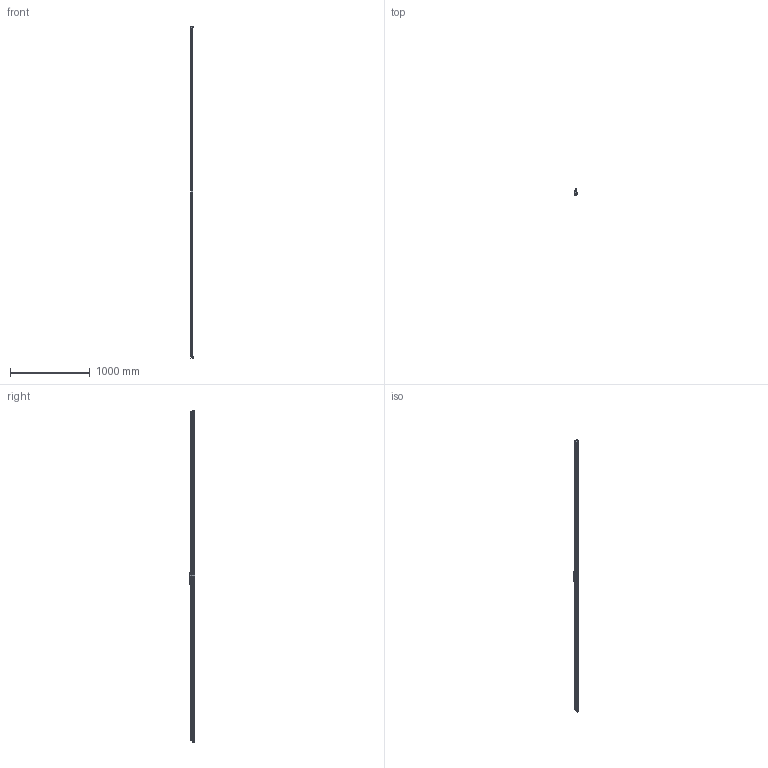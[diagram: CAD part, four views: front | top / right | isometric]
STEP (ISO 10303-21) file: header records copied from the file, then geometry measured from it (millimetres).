
FILE_DESCRIPTION (( 'STEP AP214' ), '1' );
FILE_NAME ('MLC310x4000.STEP', '2021-05-08T12:05:04', ( '' ), ( '' ), 'SwSTEP 2.0', 'SolidWorks 2014', '' );
FILE_SCHEMA (( 'AUTOMOTIVE_DESIGN' ));
Length unit declared in the file: millimetre
Products named in the file (1): MLC310x4000
Bounding box: 27 x 75.15 x 4164 mm (x, y, z)
Surface area: 680178.5 mm2 (no closed solid volume)
Topology: 0 solids, 30 shells, 242 faces, 1036 edges, 804 vertices
Faces by surface type: plane 119, cylinder 92, cone 20, bspline 9, torus 2
Entity records: 22639 total; most frequent: CARTESIAN_POINT 11752, DIRECTION 1686, ORIENTED_EDGE 1382, EDGE_CURVE 1036, VERTEX_POINT 804, AXIS2_PLACEMENT_3D 565, LINE 556, VECTOR 556
